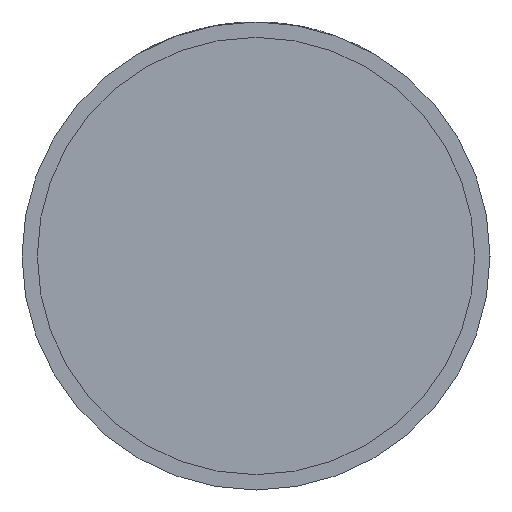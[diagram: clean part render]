
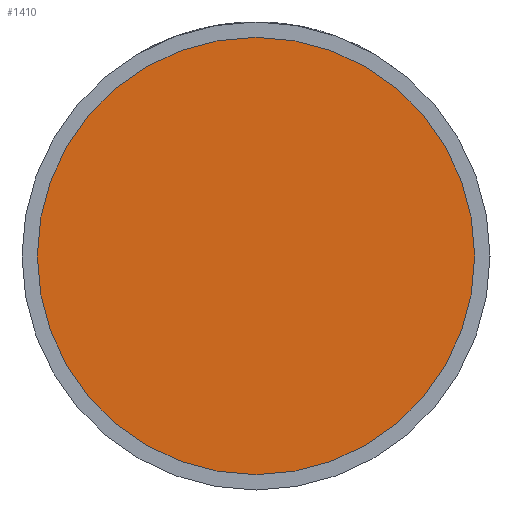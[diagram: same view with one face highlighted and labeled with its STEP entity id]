
A CAD part, front view. The second image highlights one B-rep face of the part: STEP entity #1410.
In plain terms, the highlighted planar face has unit normal (0, -1, 0).
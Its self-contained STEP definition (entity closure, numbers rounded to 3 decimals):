
#86 = CARTESIAN_POINT ( 'NONE',  ( 28.5, -17.5, 0. ) ) ;
#318 = AXIS2_PLACEMENT_3D ( 'NONE', #2872, #4198, #1228 ) ;
#569 = EDGE_LOOP ( 'NONE', ( #1317, #2921 ) ) ;
#1023 = DIRECTION ( 'NONE',  ( 0., -1., 0. ) ) ;
#1228 = DIRECTION ( 'NONE',  ( 1., 0., 0. ) ) ;
#1317 = ORIENTED_EDGE ( 'NONE', *, *, #3743, .T. ) ;
#1320 = DIRECTION ( 'NONE',  ( 1., 0., 0. ) ) ;
#1410 = ADVANCED_FACE ( 'NONE', ( #2037 ), #3358, .T. ) ;
#1497 = DIRECTION ( 'NONE',  ( 0., -1., 0. ) ) ;
#1846 = CARTESIAN_POINT ( 'NONE',  ( 0., -17.5, 0. ) ) ;
#2037 = FACE_OUTER_BOUND ( 'NONE', #569, .T. ) ;
#2200 = AXIS2_PLACEMENT_3D ( 'NONE', #1846, #1497, #3554 ) ;
#2445 = VERTEX_POINT ( 'NONE', #86 ) ;
#2535 = AXIS2_PLACEMENT_3D ( 'NONE', #3943, #1023, #1320 ) ;
#2872 = CARTESIAN_POINT ( 'NONE',  ( 28.5, -17.5, 0. ) ) ;
#2913 = EDGE_CURVE ( 'NONE', #3654, #2445, #3644, .T. ) ;
#2921 = ORIENTED_EDGE ( 'NONE', *, *, #2913, .T. ) ;
#3358 = PLANE ( 'NONE',  #318 ) ;
#3473 = CARTESIAN_POINT ( 'NONE',  ( -28.5, -17.5, 0. ) ) ;
#3554 = DIRECTION ( 'NONE',  ( 1., 0., 0. ) ) ;
#3644 = CIRCLE ( 'NONE', #2535, 28.5 ) ;
#3654 = VERTEX_POINT ( 'NONE', #3473 ) ;
#3743 = EDGE_CURVE ( 'NONE', #2445, #3654, #3866, .T. ) ;
#3866 = CIRCLE ( 'NONE', #2200, 28.5 ) ;
#3943 = CARTESIAN_POINT ( 'NONE',  ( 0., -17.5, 0. ) ) ;
#4198 = DIRECTION ( 'NONE',  ( 0., -1., 0. ) ) ;
